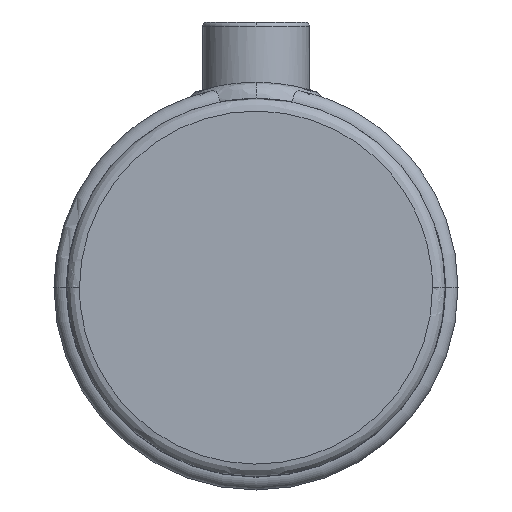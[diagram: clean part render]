
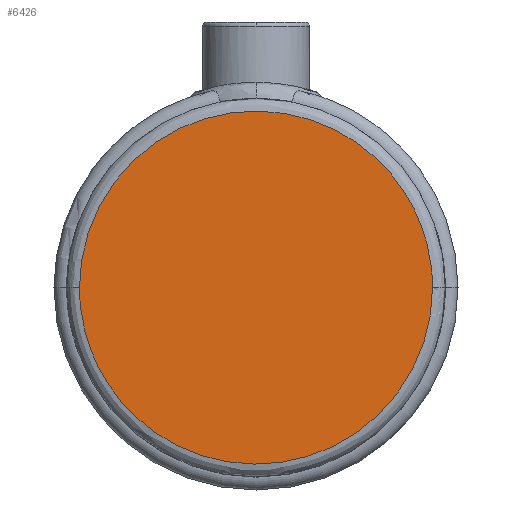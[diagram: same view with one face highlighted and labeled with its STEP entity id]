
A CAD part, top view. The second image highlights one B-rep face of the part: STEP entity #6426.
In plain terms, the highlighted planar face has unit normal (0, 0, 1).
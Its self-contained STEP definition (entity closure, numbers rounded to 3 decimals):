
#602 = AXIS2_PLACEMENT_3D ( 'NONE', #1498, #7170, #2312 ) ;
#709 =( BOUNDED_CURVE ( )  B_SPLINE_CURVE ( 3, ( #5619, #7218, #9727, #4824 ),
 .UNSPECIFIED., .F., .T. ) 
 B_SPLINE_CURVE_WITH_KNOTS ( ( 4, 4 ),
 ( 0.25, 0.75 ),
 .UNSPECIFIED. ) 
 CURVE ( )  GEOMETRIC_REPRESENTATION_ITEM ( )  RATIONAL_B_SPLINE_CURVE ( ( 1., 0.333, 0.333, 1. ) ) 
 REPRESENTATION_ITEM ( '' )  );
#905 = VERTEX_POINT ( 'NONE', #7347 ) ;
#1232 = CARTESIAN_POINT ( 'NONE',  ( 41.45, 0., 50. ) ) ;
#1498 = CARTESIAN_POINT ( 'NONE',  ( 0., 22.225, 50. ) ) ;
#2312 = DIRECTION ( 'NONE',  ( 0., -1., 0. ) ) ;
#2513 = VERTEX_POINT ( 'NONE', #1232 ) ;
#2554 =( BOUNDED_CURVE ( )  B_SPLINE_CURVE ( 3, ( #5010, #5841, #3430, #9132 ),
 .UNSPECIFIED., .F., .F. ) 
 B_SPLINE_CURVE_WITH_KNOTS ( ( 4, 4 ),
 ( 0.75, 1.25 ),
 .UNSPECIFIED. ) 
 CURVE ( )  GEOMETRIC_REPRESENTATION_ITEM ( )  RATIONAL_B_SPLINE_CURVE ( ( 1., 0.333, 0.333, 1. ) ) 
 REPRESENTATION_ITEM ( '' )  );
#3031 = ORIENTED_EDGE ( 'NONE', *, *, #9369, .F. ) ;
#3430 = CARTESIAN_POINT ( 'NONE',  ( 41.45, 82.9, 50. ) ) ;
#4824 = CARTESIAN_POINT ( 'NONE',  ( -41.45, 0., 50. ) ) ;
#5010 = CARTESIAN_POINT ( 'NONE',  ( -41.45, 0., 50. ) ) ;
#5619 = CARTESIAN_POINT ( 'NONE',  ( 41.45, 0., 50. ) ) ;
#5841 = CARTESIAN_POINT ( 'NONE',  ( -41.45, 82.9, 50. ) ) ;
#5920 = EDGE_LOOP ( 'NONE', ( #3031, #6328 ) ) ;
#6328 = ORIENTED_EDGE ( 'NONE', *, *, #8164, .F. ) ;
#6355 = PLANE ( 'NONE',  #602 ) ;
#6426 = ADVANCED_FACE ( 'NONE', ( #7432 ), #6355, .T. ) ;
#7170 = DIRECTION ( 'NONE',  ( 0., 0., 1. ) ) ;
#7218 = CARTESIAN_POINT ( 'NONE',  ( 41.45, -82.9, 50. ) ) ;
#7347 = CARTESIAN_POINT ( 'NONE',  ( -41.45, 0., 50. ) ) ;
#7432 = FACE_OUTER_BOUND ( 'NONE', #5920, .T. ) ;
#8164 = EDGE_CURVE ( 'NONE', #905, #2513, #2554, .T. ) ;
#9132 = CARTESIAN_POINT ( 'NONE',  ( 41.45, 0., 50. ) ) ;
#9369 = EDGE_CURVE ( 'NONE', #2513, #905, #709, .T. ) ;
#9727 = CARTESIAN_POINT ( 'NONE',  ( -41.45, -82.9, 50. ) ) ;
